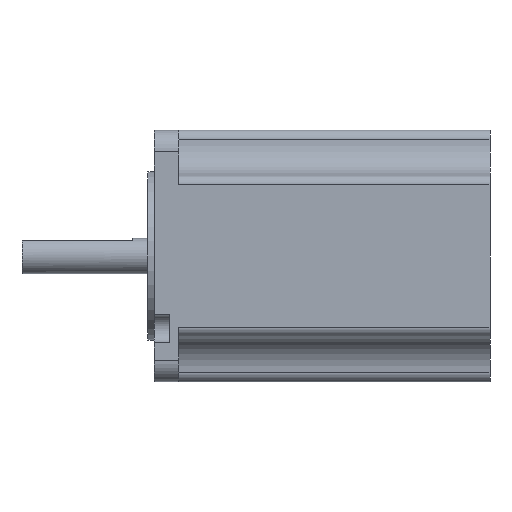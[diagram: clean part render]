
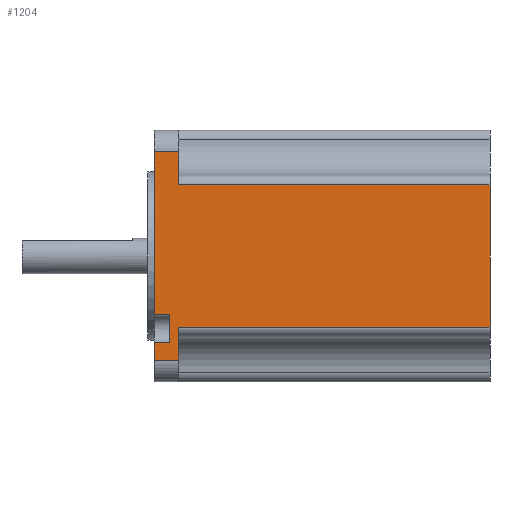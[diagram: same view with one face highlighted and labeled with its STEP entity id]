
A CAD part, left-side view. The second image highlights one B-rep face of the part: STEP entity #1204.
In plain terms, the highlighted planar face has unit normal (-1, 0, 0).
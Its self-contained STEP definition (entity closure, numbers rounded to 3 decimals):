
#11 = EDGE_CURVE ( 'NONE', #146, #298, #282, .T. ) ;
#44 = VECTOR ( 'NONE', #1226, 1000. ) ;
#119 = DIRECTION ( 'NONE',  ( 0., 0., 1. ) ) ;
#121 = VERTEX_POINT ( 'NONE', #419 ) ;
#146 = VERTEX_POINT ( 'NONE', #253 ) ;
#191 = VECTOR ( 'NONE', #722, 1000. ) ;
#225 = DIRECTION ( 'NONE',  ( 0., 0., -1. ) ) ;
#253 = CARTESIAN_POINT ( 'NONE',  ( 0., -5.5, -4.93 ) ) ;
#274 = ORIENTED_EDGE ( 'NONE', *, *, #1699, .F. ) ;
#282 = LINE ( 'NONE', #962, #755 ) ;
#288 = VECTOR ( 'NONE', #370, 1000. ) ;
#298 = VERTEX_POINT ( 'NONE', #1111 ) ;
#306 = ORIENTED_EDGE ( 'NONE', *, *, #1140, .F. ) ;
#362 = EDGE_CURVE ( 'NONE', #298, #1335, #375, .T. ) ;
#370 = DIRECTION ( 'NONE',  ( 0., -1., 0. ) ) ;
#375 = LINE ( 'NONE', #1886, #288 ) ;
#419 = CARTESIAN_POINT ( 'NONE',  ( 0., 0., -48.2 ) ) ;
#477 = CARTESIAN_POINT ( 'NONE',  ( 0., -6., -4.93 ) ) ;
#514 = CARTESIAN_POINT ( 'NONE',  ( 0., -5.5, -52.07 ) ) ;
#515 = CARTESIAN_POINT ( 'NONE',  ( 0., 0., -41.8 ) ) ;
#576 = ORIENTED_EDGE ( 'NONE', *, *, #872, .T. ) ;
#579 = LINE ( 'NONE', #1618, #44 ) ;
#589 = ORIENTED_EDGE ( 'NONE', *, *, #2058, .F. ) ;
#594 = VERTEX_POINT ( 'NONE', #1182 ) ;
#611 = CARTESIAN_POINT ( 'NONE',  ( 0., -76., -12.4 ) ) ;
#622 = VERTEX_POINT ( 'NONE', #999 ) ;
#628 = CARTESIAN_POINT ( 'NONE',  ( 0., -3.4, -48.2 ) ) ;
#696 = LINE ( 'NONE', #1031, #1977 ) ;
#701 = EDGE_CURVE ( 'NONE', #1489, #1589, #899, .T. ) ;
#715 = VERTEX_POINT ( 'NONE', #1949 ) ;
#720 = LINE ( 'NONE', #477, #1165 ) ;
#722 = DIRECTION ( 'NONE',  ( 0., 1., 0. ) ) ;
#755 = VECTOR ( 'NONE', #225, 1000. ) ;
#781 = VECTOR ( 'NONE', #2404, 1000. ) ;
#785 = AXIS2_PLACEMENT_3D ( 'NONE', #1710, #2262, #1139 ) ;
#872 = EDGE_CURVE ( 'NONE', #594, #121, #579, .T. ) ;
#899 = LINE ( 'NONE', #1034, #1146 ) ;
#913 = CARTESIAN_POINT ( 'NONE',  ( 0., -5.5, -57. ) ) ;
#933 = CARTESIAN_POINT ( 'NONE',  ( 0., -5.5, -44.6 ) ) ;
#941 = PLANE ( 'NONE',  #785 ) ;
#962 = CARTESIAN_POINT ( 'NONE',  ( 0., -5.5, -12.4 ) ) ;
#976 = EDGE_LOOP ( 'NONE', ( #2020, #1651, #576, #2130, #589, #306, #2216, #2333, #1820, #1642, #1700, #274 ) ) ;
#999 = CARTESIAN_POINT ( 'NONE',  ( 0., 0., -52.07 ) ) ;
#1022 = VECTOR ( 'NONE', #2402, 1000. ) ;
#1023 = CARTESIAN_POINT ( 'NONE',  ( 0., 0., 0. ) ) ;
#1031 = CARTESIAN_POINT ( 'NONE',  ( 0., -76., 0. ) ) ;
#1034 = CARTESIAN_POINT ( 'NONE',  ( 0., -5.5, -44.6 ) ) ;
#1048 = VERTEX_POINT ( 'NONE', #515 ) ;
#1061 = CARTESIAN_POINT ( 'NONE',  ( 0., -76., -44.6 ) ) ;
#1111 = CARTESIAN_POINT ( 'NONE',  ( 0., -5.5, -12.4 ) ) ;
#1116 = DIRECTION ( 'NONE',  ( 0., 0., -1. ) ) ;
#1139 = DIRECTION ( 'NONE',  ( 0., 0., 1. ) ) ;
#1140 = EDGE_CURVE ( 'NONE', #1489, #1644, #1501, .T. ) ;
#1146 = VECTOR ( 'NONE', #2162, 1000. ) ;
#1165 = VECTOR ( 'NONE', #1420, 1000. ) ;
#1182 = CARTESIAN_POINT ( 'NONE',  ( 0., -3.4, -48.2 ) ) ;
#1204 = ADVANCED_FACE ( 'NONE', ( #2436 ), #941, .T. ) ;
#1211 = DIRECTION ( 'NONE',  ( 0., 0., 1. ) ) ;
#1226 = DIRECTION ( 'NONE',  ( 0., 1., 0. ) ) ;
#1314 = VERTEX_POINT ( 'NONE', #2293 ) ;
#1315 = LINE ( 'NONE', #1861, #191 ) ;
#1335 = VERTEX_POINT ( 'NONE', #611 ) ;
#1387 = EDGE_CURVE ( 'NONE', #594, #1314, #2148, .T. ) ;
#1420 = DIRECTION ( 'NONE',  ( 0., 1., 0. ) ) ;
#1446 = CARTESIAN_POINT ( 'NONE',  ( 0., 0., 0. ) ) ;
#1468 = LINE ( 'NONE', #1446, #1590 ) ;
#1489 = VERTEX_POINT ( 'NONE', #933 ) ;
#1501 = LINE ( 'NONE', #913, #1950 ) ;
#1531 = VECTOR ( 'NONE', #1211, 1000. ) ;
#1589 = VERTEX_POINT ( 'NONE', #1061 ) ;
#1590 = VECTOR ( 'NONE', #119, 1000. ) ;
#1618 = CARTESIAN_POINT ( 'NONE',  ( 0., -3.4, -48.2 ) ) ;
#1642 = ORIENTED_EDGE ( 'NONE', *, *, #11, .F. ) ;
#1644 = VERTEX_POINT ( 'NONE', #514 ) ;
#1651 = ORIENTED_EDGE ( 'NONE', *, *, #1387, .F. ) ;
#1692 = EDGE_CURVE ( 'NONE', #1314, #1048, #1825, .T. ) ;
#1699 = EDGE_CURVE ( 'NONE', #1048, #715, #2256, .T. ) ;
#1700 = ORIENTED_EDGE ( 'NONE', *, *, #2373, .T. ) ;
#1710 = CARTESIAN_POINT ( 'NONE',  ( 0., -76., 0. ) ) ;
#1733 = EDGE_CURVE ( 'NONE', #1589, #1335, #696, .T. ) ;
#1820 = ORIENTED_EDGE ( 'NONE', *, *, #362, .F. ) ;
#1825 = LINE ( 'NONE', #2215, #1022 ) ;
#1843 = EDGE_CURVE ( 'NONE', #622, #121, #1468, .T. ) ;
#1861 = CARTESIAN_POINT ( 'NONE',  ( 0., -6., -52.07 ) ) ;
#1886 = CARTESIAN_POINT ( 'NONE',  ( 0., -5.5, -12.4 ) ) ;
#1949 = CARTESIAN_POINT ( 'NONE',  ( 0., 0., -4.93 ) ) ;
#1950 = VECTOR ( 'NONE', #1116, 1000. ) ;
#1977 = VECTOR ( 'NONE', #2346, 1000. ) ;
#2020 = ORIENTED_EDGE ( 'NONE', *, *, #1692, .F. ) ;
#2058 = EDGE_CURVE ( 'NONE', #1644, #622, #1315, .T. ) ;
#2130 = ORIENTED_EDGE ( 'NONE', *, *, #1843, .F. ) ;
#2148 = LINE ( 'NONE', #628, #781 ) ;
#2162 = DIRECTION ( 'NONE',  ( 0., -1., 0. ) ) ;
#2215 = CARTESIAN_POINT ( 'NONE',  ( 0., -3.4, -41.8 ) ) ;
#2216 = ORIENTED_EDGE ( 'NONE', *, *, #701, .T. ) ;
#2256 = LINE ( 'NONE', #1023, #1531 ) ;
#2262 = DIRECTION ( 'NONE',  ( -1., 0., 0. ) ) ;
#2293 = CARTESIAN_POINT ( 'NONE',  ( 0., -3.4, -41.8 ) ) ;
#2333 = ORIENTED_EDGE ( 'NONE', *, *, #1733, .T. ) ;
#2346 = DIRECTION ( 'NONE',  ( 0., 0., 1. ) ) ;
#2373 = EDGE_CURVE ( 'NONE', #146, #715, #720, .T. ) ;
#2402 = DIRECTION ( 'NONE',  ( 0., 1., 0. ) ) ;
#2404 = DIRECTION ( 'NONE',  ( 0., 0., 1. ) ) ;
#2436 = FACE_OUTER_BOUND ( 'NONE', #976, .T. ) ;
